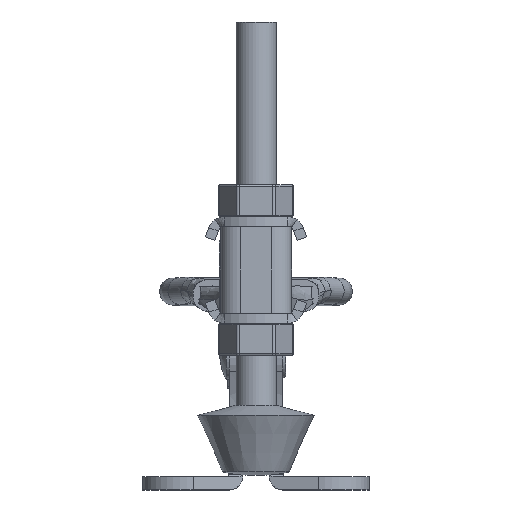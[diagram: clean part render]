
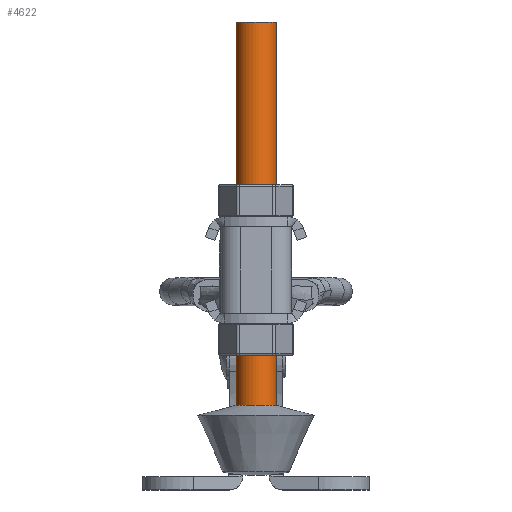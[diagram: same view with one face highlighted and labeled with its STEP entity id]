
A CAD part, left-side view. The second image highlights one B-rep face of the part: STEP entity #4622.
In plain terms, the highlighted cylindrical face has radius 3 mm (diameter 6 mm), a full revolution.
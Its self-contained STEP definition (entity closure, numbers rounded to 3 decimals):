
#918=CYLINDRICAL_SURFACE('',#5150,3.);
#1083=FACE_BOUND('',#1707,.T.);
#1358=FACE_OUTER_BOUND('',#1706,.T.);
#1706=EDGE_LOOP('',(#4315));
#1707=EDGE_LOOP('',(#4316));
#1960=CIRCLE('',#5151,3.);
#1961=CIRCLE('',#5152,3.);
#2388=VERTEX_POINT('',#9387);
#2389=VERTEX_POINT('',#9389);
#3032=EDGE_CURVE('',#2388,#2388,#1960,.T.);
#3033=EDGE_CURVE('',#2389,#2389,#1961,.T.);
#4315=ORIENTED_EDGE('',*,*,#3032,.T.);
#4316=ORIENTED_EDGE('',*,*,#3033,.F.);
#4622=ADVANCED_FACE('',(#1358,#1083),#918,.T.);
#5150=AXIS2_PLACEMENT_3D('',#9386,#6485,#6486);
#5151=AXIS2_PLACEMENT_3D('',#9388,#6487,#6488);
#5152=AXIS2_PLACEMENT_3D('',#9390,#6489,#6490);
#6485=DIRECTION('center_axis',(0.,0.,1.));
#6486=DIRECTION('ref_axis',(-1.,0.,0.));
#6487=DIRECTION('center_axis',(0.,0.,-1.));
#6488=DIRECTION('ref_axis',(-1.,0.,0.));
#6489=DIRECTION('center_axis',(0.,0.,-1.));
#6490=DIRECTION('ref_axis',(-1.,0.,0.));
#9386=CARTESIAN_POINT('Origin',(0.,0.,10.5));
#9387=CARTESIAN_POINT('',(3.,0.,68.));
#9388=CARTESIAN_POINT('Origin',(0.,0.,68.));
#9389=CARTESIAN_POINT('',(3.,0.,10.5));
#9390=CARTESIAN_POINT('Origin',(0.,0.,10.5));
